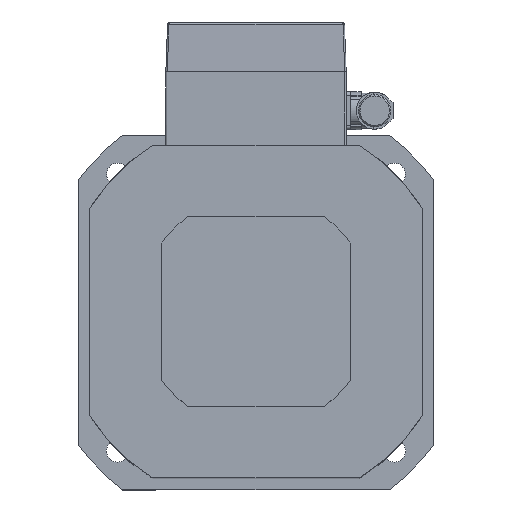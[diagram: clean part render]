
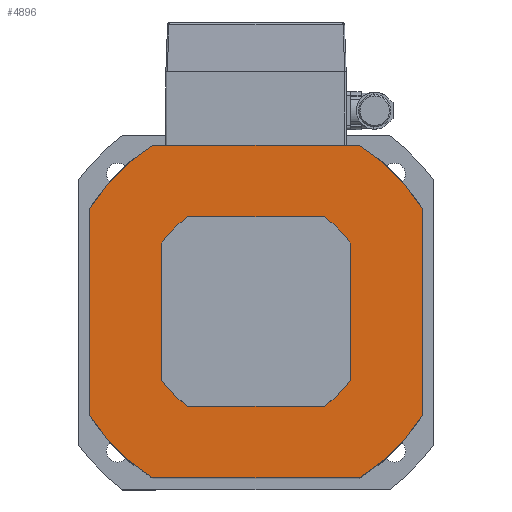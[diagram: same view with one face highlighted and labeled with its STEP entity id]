
A CAD part, top view. The second image highlights one B-rep face of the part: STEP entity #4896.
In plain terms, the highlighted planar face has unit normal (0, 0, 1).
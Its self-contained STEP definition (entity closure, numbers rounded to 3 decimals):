
#978=PLANE('',#5168);
#1099=VECTOR('',#5682,1.);
#1103=VECTOR('',#5693,1.);
#1107=VECTOR('',#5704,1.);
#1109=VECTOR('',#5707,1.);
#1400=LINE('',#6889,#1099);
#1404=LINE('',#6901,#1103);
#1408=LINE('',#6913,#1107);
#1410=LINE('',#6917,#1109);
#1699=VERTEX_POINT('',#6880);
#1700=VERTEX_POINT('',#6882);
#1702=VERTEX_POINT('',#6888);
#1704=VERTEX_POINT('',#6894);
#1706=VERTEX_POINT('',#6900);
#1708=VERTEX_POINT('',#6906);
#1710=VERTEX_POINT('',#6912);
#1712=VERTEX_POINT('',#6918);
#2130=CIRCLE('',#5153,132.5);
#2132=CIRCLE('',#5157,132.5);
#2134=CIRCLE('',#5161,132.5);
#2136=CIRCLE('',#5167,132.5);
#2341=EDGE_CURVE('',#1700,#1699,#2130,.T.);
#2345=EDGE_CURVE('',#1699,#1702,#1400,.T.);
#2348=EDGE_CURVE('',#1702,#1704,#2132,.T.);
#2351=EDGE_CURVE('',#1704,#1706,#1404,.T.);
#2354=EDGE_CURVE('',#1706,#1708,#2134,.T.);
#2357=EDGE_CURVE('',#1708,#1710,#1408,.T.);
#2359=EDGE_CURVE('',#1712,#1700,#1410,.T.);
#2362=EDGE_CURVE('',#1710,#1712,#2136,.T.);
#3002=ORIENTED_EDGE('',*,*,#2357,.T.);
#3003=ORIENTED_EDGE('',*,*,#2362,.T.);
#3004=ORIENTED_EDGE('',*,*,#2359,.T.);
#3005=ORIENTED_EDGE('',*,*,#2341,.T.);
#3006=ORIENTED_EDGE('',*,*,#2345,.T.);
#3007=ORIENTED_EDGE('',*,*,#2348,.T.);
#3008=ORIENTED_EDGE('',*,*,#2351,.T.);
#3009=ORIENTED_EDGE('',*,*,#2354,.T.);
#4217=EDGE_LOOP('',(#3002,#3003,#3004,#3005,#3006,#3007,#3008,#3009));
#4555=FACE_BOUND('',#4217,.T.);
#4896=ADVANCED_FACE('',(#4555),#978,.T.);
#5153=AXIS2_PLACEMENT_3D('',#6881,#5676,#5677);
#5157=AXIS2_PLACEMENT_3D('',#6895,#5688,#5689);
#5161=AXIS2_PLACEMENT_3D('',#6907,#5699,#5700);
#5167=AXIS2_PLACEMENT_3D('',#6923,#5714,#5715);
#5168=AXIS2_PLACEMENT_3D('',#6924,#5716,$);
#5676=DIRECTION('',(0.,0.,1.));
#5677=DIRECTION('',(132.5,0.,0.));
#5682=DIRECTION('',(1.,0.,0.));
#5688=DIRECTION('',(0.,0.,1.));
#5689=DIRECTION('',(132.5,0.,0.));
#5693=DIRECTION('',(0.,1.,0.));
#5699=DIRECTION('',(0.,0.,1.));
#5700=DIRECTION('',(132.5,0.,0.));
#5704=DIRECTION('',(-1.,0.,0.));
#5707=DIRECTION('',(0.,-1.,0.));
#5714=DIRECTION('',(0.,0.,1.));
#5715=DIRECTION('',(132.5,0.,0.));
#5716=DIRECTION('',(0.,0.,1.));
#6880=CARTESIAN_POINT('',(-70.,-112.5,0.));
#6881=CARTESIAN_POINT('',(0.,0.,0.));
#6882=CARTESIAN_POINT('',(-112.5,-70.,0.));
#6888=CARTESIAN_POINT('',(70.,-112.5,0.));
#6889=CARTESIAN_POINT('',(-70.,-112.5,0.));
#6894=CARTESIAN_POINT('',(112.5,-70.,0.));
#6895=CARTESIAN_POINT('',(0.,0.,0.));
#6900=CARTESIAN_POINT('',(112.5,70.,0.));
#6901=CARTESIAN_POINT('',(112.5,-70.,0.));
#6906=CARTESIAN_POINT('',(70.,112.5,0.));
#6907=CARTESIAN_POINT('',(0.,0.,0.));
#6912=CARTESIAN_POINT('',(-70.,112.5,0.));
#6913=CARTESIAN_POINT('',(70.,112.5,0.));
#6917=CARTESIAN_POINT('',(-112.5,70.,0.));
#6918=CARTESIAN_POINT('',(-112.5,70.,0.));
#6923=CARTESIAN_POINT('',(0.,0.,0.));
#6924=CARTESIAN_POINT('',(0.,0.,0.));
